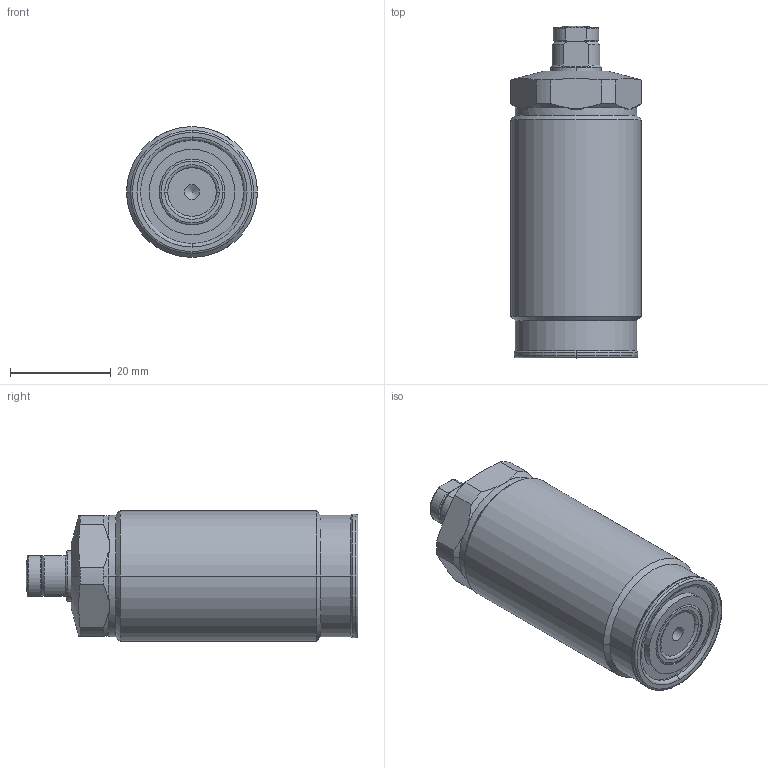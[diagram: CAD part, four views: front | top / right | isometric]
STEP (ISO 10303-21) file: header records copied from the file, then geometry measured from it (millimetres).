
FILE_DESCRIPTION(/* description */ (''),/* implementation_level */ '2;1');
FILE_NAME(/* name */ 'TSC26.stp',/* time_stamp */ '2025-01-10T15:01:33+08:00',/* author */ (''),/* organization */ (''),/* preprocessor_version */ 'ST-DEVELOPER v16.7',/* originating_system */ 'SIEMENS PLM Software NX 12.0',/* authorisation */ '');
FILE_SCHEMA (('AUTOMOTIVE_DESIGN { 1 0 10303 214 3 1 1 1 }'));
Length unit declared in the file: millimetre
Products named in the file (7): XLD-M6_Oring736; XLD-M6_contactbolt737; TSC26-05; TSC26-02; TSC26-01; TSC26-04; TSC26_stp
Assembly tree (6 placements, depth 3):
  TSC26_stp
    TSC26-01
    TSC26-02
    TSC26-04
      XLD-M6_contactbolt737
      XLD-M6_Oring736
    TSC26-05
Bounding box: 26 x 66 x 26 mm (x, y, z)
Volume: 28697.2 mm3; surface area: 7585.4 mm2
Topology: 5 solids, 5 shells, 137 faces, 312 edges, 193 vertices
Faces by surface type: cylinder 44, plane 35, torus 30, cone 26, sphere 2
Full cylindrical faces by diameter (mm): 3 x1
Entity records: 4170 total; most frequent: CARTESIAN_POINT 872, DIRECTION 730, ORIENTED_EDGE 616, AXIS2_PLACEMENT_3D 318, EDGE_CURVE 308, VERTEX_POINT 192, CIRCLE 174, EDGE_LOOP 151
